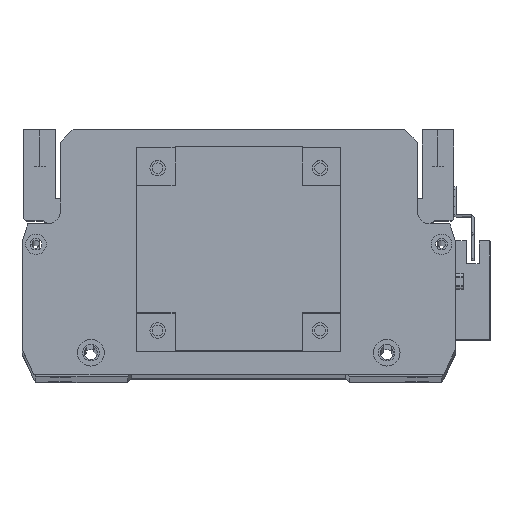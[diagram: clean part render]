
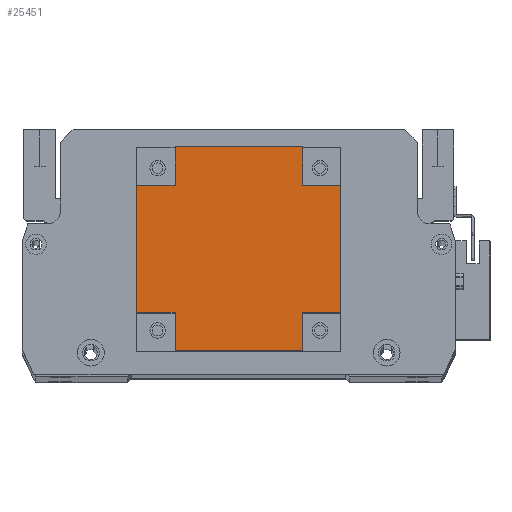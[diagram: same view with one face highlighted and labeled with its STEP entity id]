
A CAD part, top view. The second image highlights one B-rep face of the part: STEP entity #25451.
In plain terms, the highlighted planar face has unit normal (0, 0, 1).
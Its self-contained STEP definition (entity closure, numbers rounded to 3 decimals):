
#186 = ORIENTED_EDGE ( 'NONE', *, *, #24556, .F. ) ;
#314 = CARTESIAN_POINT ( 'NONE',  ( 65., 65., 101.5 ) ) ;
#444 = DIRECTION ( 'NONE',  ( 1., 0., 0. ) ) ;
#1196 = CARTESIAN_POINT ( 'NONE',  ( 65., 15., 101.5 ) ) ;
#1253 = VECTOR ( 'NONE', #18345, 1000. ) ;
#1455 = EDGE_CURVE ( 'NONE', #1582, #25054, #4235, .T. ) ;
#1582 = VERTEX_POINT ( 'NONE', #25505 ) ;
#1611 = ORIENTED_EDGE ( 'NONE', *, *, #17718, .T. ) ;
#1615 = LINE ( 'NONE', #19712, #6575 ) ;
#2436 = ORIENTED_EDGE ( 'NONE', *, *, #24806, .F. ) ;
#3159 = ORIENTED_EDGE ( 'NONE', *, *, #24546, .F. ) ;
#3281 = DIRECTION ( 'NONE',  ( 0., 1., 0. ) ) ;
#3319 = VECTOR ( 'NONE', #20450, 1000. ) ;
#3432 = PLANE ( 'NONE',  #9263 ) ;
#3637 = CARTESIAN_POINT ( 'NONE',  ( 65., 65., 101.5 ) ) ;
#4065 = ORIENTED_EDGE ( 'NONE', *, *, #1455, .T. ) ;
#4235 = LINE ( 'NONE', #6476, #15257 ) ;
#4604 = CARTESIAN_POINT ( 'NONE',  ( 80., 65., 101.5 ) ) ;
#4988 = VERTEX_POINT ( 'NONE', #19137 ) ;
#5234 = VERTEX_POINT ( 'NONE', #13726 ) ;
#5321 = LINE ( 'NONE', #20902, #26726 ) ;
#5576 = VERTEX_POINT ( 'NONE', #12625 ) ;
#6237 = ORIENTED_EDGE ( 'NONE', *, *, #24817, .F. ) ;
#6476 = CARTESIAN_POINT ( 'NONE',  ( 0., 0., 101.5 ) ) ;
#6575 = VECTOR ( 'NONE', #7349, 1000. ) ;
#7349 = DIRECTION ( 'NONE',  ( -1., 0., 0. ) ) ;
#7433 = VECTOR ( 'NONE', #24029, 1000. ) ;
#7613 = ORIENTED_EDGE ( 'NONE', *, *, #24964, .F. ) ;
#8096 = CARTESIAN_POINT ( 'NONE',  ( 0., 80., 101.5 ) ) ;
#8109 = ORIENTED_EDGE ( 'NONE', *, *, #24730, .F. ) ;
#8288 = VERTEX_POINT ( 'NONE', #21138 ) ;
#8591 = DIRECTION ( 'NONE',  ( 1., 0., 0. ) ) ;
#8798 = CARTESIAN_POINT ( 'NONE',  ( 15., 80., 101.5 ) ) ;
#8871 = LINE ( 'NONE', #20237, #13008 ) ;
#8901 = LINE ( 'NONE', #8096, #3319 ) ;
#9263 = AXIS2_PLACEMENT_3D ( 'NONE', #22091, #26301, #13834 ) ;
#9597 = CARTESIAN_POINT ( 'NONE',  ( 65., 0., 101.5 ) ) ;
#9925 = DIRECTION ( 'NONE',  ( -1., 0., 0. ) ) ;
#10138 = VECTOR ( 'NONE', #11630, 1000. ) ;
#10352 = CARTESIAN_POINT ( 'NONE',  ( 65., 0., 101.5 ) ) ;
#10379 = ORIENTED_EDGE ( 'NONE', *, *, #23984, .T. ) ;
#11113 = LINE ( 'NONE', #8798, #27006 ) ;
#11630 = DIRECTION ( 'NONE',  ( 0., -1., 0. ) ) ;
#11747 = LINE ( 'NONE', #21238, #15989 ) ;
#12625 = CARTESIAN_POINT ( 'NONE',  ( 80., 15., 101.5 ) ) ;
#12637 = DIRECTION ( 'NONE',  ( 0., 1., 0. ) ) ;
#13008 = VECTOR ( 'NONE', #9925, 1000. ) ;
#13726 = CARTESIAN_POINT ( 'NONE',  ( 65., 80., 101.5 ) ) ;
#13834 = DIRECTION ( 'NONE',  ( -1., 0., 0. ) ) ;
#14378 = VERTEX_POINT ( 'NONE', #314 ) ;
#14489 = EDGE_LOOP ( 'NONE', ( #21309, #3159, #186, #1611, #8109, #2436, #4065, #6237, #25787, #10379, #21782, #7613 ) ) ;
#14993 = DIRECTION ( 'NONE',  ( 0., 1., 0. ) ) ;
#15257 = VECTOR ( 'NONE', #8591, 1000. ) ;
#15723 = CARTESIAN_POINT ( 'NONE',  ( 15., 0., 101.5 ) ) ;
#15989 = VECTOR ( 'NONE', #444, 1000. ) ;
#16312 = LINE ( 'NONE', #15723, #26676 ) ;
#16963 = LINE ( 'NONE', #9597, #10138 ) ;
#17718 = EDGE_CURVE ( 'NONE', #17881, #25657, #25214, .T. ) ;
#17881 = VERTEX_POINT ( 'NONE', #25428 ) ;
#17913 = LINE ( 'NONE', #24522, #1253 ) ;
#18345 = DIRECTION ( 'NONE',  ( 0., -1., 0. ) ) ;
#18557 = VECTOR ( 'NONE', #26513, 1000. ) ;
#18861 = CARTESIAN_POINT ( 'NONE',  ( 15., 15., 101.5 ) ) ;
#19137 = CARTESIAN_POINT ( 'NONE',  ( 15., 65., 101.5 ) ) ;
#19712 = CARTESIAN_POINT ( 'NONE',  ( 0., 15., 101.5 ) ) ;
#20237 = CARTESIAN_POINT ( 'NONE',  ( 80., 15., 101.5 ) ) ;
#20450 = DIRECTION ( 'NONE',  ( -1., 0., 0. ) ) ;
#20902 = CARTESIAN_POINT ( 'NONE',  ( 80., 0., 101.5 ) ) ;
#21138 = CARTESIAN_POINT ( 'NONE',  ( 15., 80., 101.5 ) ) ;
#21238 = CARTESIAN_POINT ( 'NONE',  ( 0., 65., 101.5 ) ) ;
#21309 = ORIENTED_EDGE ( 'NONE', *, *, #24386, .T. ) ;
#21417 = FACE_OUTER_BOUND ( 'NONE', #14489, .T. ) ;
#21782 = ORIENTED_EDGE ( 'NONE', *, *, #24901, .F. ) ;
#21923 = CARTESIAN_POINT ( 'NONE',  ( 0., 0., 101.5 ) ) ;
#22091 = CARTESIAN_POINT ( 'NONE',  ( 0., 0., 101.5 ) ) ;
#22228 = VERTEX_POINT ( 'NONE', #18861 ) ;
#22804 = CARTESIAN_POINT ( 'NONE',  ( 0., 15., 101.5 ) ) ;
#23984 = EDGE_CURVE ( 'NONE', #5576, #24042, #5321, .T. ) ;
#24029 = DIRECTION ( 'NONE',  ( 0., -1., 0. ) ) ;
#24042 = VERTEX_POINT ( 'NONE', #4604 ) ;
#24079 = LINE ( 'NONE', #3637, #18557 ) ;
#24386 = EDGE_CURVE ( 'NONE', #5234, #8288, #8901, .T. ) ;
#24522 = CARTESIAN_POINT ( 'NONE',  ( 65., 80., 101.5 ) ) ;
#24546 = EDGE_CURVE ( 'NONE', #4988, #8288, #11113, .T. ) ;
#24556 = EDGE_CURVE ( 'NONE', #17881, #4988, #11747, .T. ) ;
#24730 = EDGE_CURVE ( 'NONE', #22228, #25657, #1615, .T. ) ;
#24806 = EDGE_CURVE ( 'NONE', #1582, #22228, #16312, .T. ) ;
#24817 = EDGE_CURVE ( 'NONE', #26754, #25054, #16963, .T. ) ;
#24898 = EDGE_CURVE ( 'NONE', #5576, #26754, #8871, .T. ) ;
#24901 = EDGE_CURVE ( 'NONE', #14378, #24042, #24079, .T. ) ;
#24964 = EDGE_CURVE ( 'NONE', #5234, #14378, #17913, .T. ) ;
#25054 = VERTEX_POINT ( 'NONE', #10352 ) ;
#25214 = LINE ( 'NONE', #21923, #7433 ) ;
#25428 = CARTESIAN_POINT ( 'NONE',  ( 0., 65., 101.5 ) ) ;
#25451 = ADVANCED_FACE ( 'NONE', ( #21417 ), #3432, .F. ) ;
#25505 = CARTESIAN_POINT ( 'NONE',  ( 15., 0., 101.5 ) ) ;
#25657 = VERTEX_POINT ( 'NONE', #22804 ) ;
#25787 = ORIENTED_EDGE ( 'NONE', *, *, #24898, .F. ) ;
#26301 = DIRECTION ( 'NONE',  ( 0., 0., -1. ) ) ;
#26513 = DIRECTION ( 'NONE',  ( 1., 0., 0. ) ) ;
#26676 = VECTOR ( 'NONE', #3281, 1000. ) ;
#26726 = VECTOR ( 'NONE', #12637, 1000. ) ;
#26754 = VERTEX_POINT ( 'NONE', #1196 ) ;
#27006 = VECTOR ( 'NONE', #14993, 1000. ) ;
